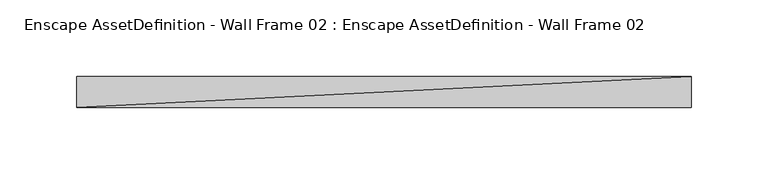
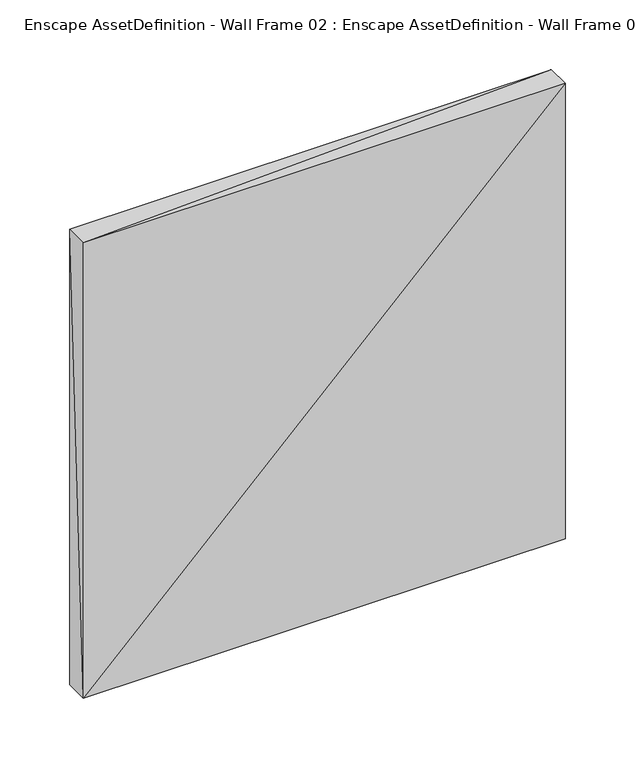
"""IFC4 building model written with IfcOpenShell, lengths in millimetres: geographic element geometry, Enscape AssetDefinition - Wall Frame 02 : Enscape AssetDefinition - Wall Frame 02."""

import ifcopenshell
import ifcopenshell.guid

model = None  # the IFC model being written
_history = None  # IfcOwnerHistory: only IFC2X3 demands one
_inside = {}  # id of a spatial element -> (the spatial element, [elements in it])
_under = {}  # id of a project, library or spatial element -> (it, [spatial elements below it])
_declared = {}  # id of a project -> (the project, [libraries it declares])
_typed = {}  # id of a type object -> (the type object, [elements of that type])
_made_of = {}  # id of a material, layer set ... -> (it, [elements and type objects made of it])


def new_model(schema):
    """Start an empty IFC model of exactly this schema.

    Asked for "IFC4X3", IfcOpenShell would pick the latest addendum, in which some entities
    have other attributes; the version numbers below select the first issue.
    IFC2X3 requires an IfcOwnerHistory on every rooted entity: one is made here for all.
    """
    global model, _history
    if schema == "IFC4X3":
        model = ifcopenshell.file(schema_version=(4, 3, 0, 0))
    else:
        model = ifcopenshell.file(schema=schema)
    _inside.clear()
    _under.clear()
    _declared.clear()
    _typed.clear()
    _made_of.clear()
    _history = None
    if model.schema == "IFC2X3":
        org = make("IfcOrganization", Name="unknown")
        user = make(
            "IfcPersonAndOrganization",
            ThePerson=make("IfcPerson", FamilyName="unknown"),
            TheOrganization=org,
        )
        app = make(
            "IfcApplication",
            ApplicationDeveloper=org,
            Version="unknown",
            ApplicationFullName="unknown",
            ApplicationIdentifier="unknown",
        )
        _history = make(
            "IfcOwnerHistory",
            OwningUser=user,
            OwningApplication=app,
            ChangeAction="ADDED",
            CreationDate=0,
        )
    return model


def make(cls, **values):
    """One entity of the class cls with the attributes given. An attribute that is None is left unset."""
    return model.create_entity(
        cls, **{name: value for name, value in values.items() if value is not None}
    )


def rooted(cls, **values):
    """An entity with a GlobalId (a new one), such as an element, a storey or a relation."""
    return make(cls, GlobalId=ifcopenshell.guid.new(), OwnerHistory=_history, **values)


def si_unit(unit_type, name, prefix=None):
    """IfcSIUnit, for example si_unit("LENGTHUNIT", "METRE", prefix="MILLI")."""
    return make("IfcSIUnit", UnitType=unit_type, Prefix=prefix, Name=name)


def assignment(units):
    """IfcUnitAssignment: the units of a project."""
    return None if units is None else make("IfcUnitAssignment", Units=units)


def point(xyz):
    """IfcCartesianPoint."""
    return None if xyz is None else make("IfcCartesianPoint", Coordinates=xyz)


def direction(xyz):
    """IfcDirection."""
    return None if xyz is None else make("IfcDirection", DirectionRatios=xyz)


def frame(location, z_axis=None, x_axis=None):
    """IfcAxis2Placement3D, a coordinate frame: its origin and axes. An axis left out is left unset."""
    return make(
        "IfcAxis2Placement3D",
        Location=point(location),
        Axis=direction(z_axis),
        RefDirection=direction(x_axis),
    )


def origin():
    """The frame at (0, 0, 0) with its axes left unset."""
    return frame((0.0, 0.0, 0.0))


def place(relative_to, where):
    """IfcLocalPlacement: puts the frame where relative to a parent placement (None: the world)."""
    return make(
        "IfcLocalPlacement", PlacementRelTo=relative_to, RelativePlacement=where
    )


def context(
    kind, dimensions, precision=None, world=None, true_north=None, identifier=None
):
    """IfcGeometricRepresentationContext, for example the 3D "Model" context."""
    return make(
        "IfcGeometricRepresentationContext",
        ContextIdentifier=identifier,
        ContextType=kind,
        CoordinateSpaceDimension=dimensions,
        Precision=precision,
        WorldCoordinateSystem=world,
        TrueNorth=true_north,
    )


def project(units=None, contexts=None):
    """IfcProject with its units and contexts."""
    return rooted(
        "IfcProject",
        Name="project",
        RepresentationContexts=contexts,
        UnitsInContext=assignment(units),
    )


def spatial(cls, under=None, at=None, **own):
    """A site, building, storey or space (cls), placed at a placement, below another one or the project."""
    s = rooted(cls, ObjectPlacement=at, **own)
    if under is not None:
        _under.setdefault(under.id(), (under, []))[1].append(s)
    return s


def faces_of(points, faces, orient=None, outer=None):
    """IfcFace entities. A face is a list of loops; a loop is a list of indices into points, from 0.

    orient and outer hold one flag for each loop. By default every Orientation is true, the
    first loop of a face is its IfcFaceOuterBound and the others are IfcFaceBound.
    """
    made = []
    for i, loops in enumerate(faces):
        bounds = []
        for j, loop in enumerate(loops):
            is_outer = j == 0 if outer is None else outer[i][j]
            bounds.append(
                make(
                    "IfcFaceOuterBound" if is_outer else "IfcFaceBound",
                    Bound=make("IfcPolyLoop", Polygon=[points[k] for k in loop]),
                    Orientation=True if orient is None else orient[i][j],
                )
            )
        made.append(make("IfcFace", Bounds=bounds))
    return made


def faceted_brep(points, faces, orient=None, outer=None, voids=None):
    """IfcFacetedBrep: a solid bounded by flat faces; with voids (closed shells), ...WithVoids."""
    shared = [point(p) for p in points]
    hull = make("IfcClosedShell", CfsFaces=faces_of(shared, faces, orient, outer))
    if voids is None:
        return make("IfcFacetedBrep", Outer=hull)
    return make(
        "IfcFacetedBrepWithVoids",
        Outer=hull,
        Voids=[
            make(cls, CfsFaces=faces_of(shared, fs, o, b)) for cls, fs, o, b in voids
        ],
    )


def shape(context_of_items, identifier, shape_type, items):
    """IfcShapeRepresentation: the items that make up one representation, for example the "Body"."""
    return make(
        "IfcShapeRepresentation",
        ContextOfItems=context_of_items,
        RepresentationIdentifier=identifier,
        RepresentationType=shape_type,
        Items=items,
    )


def source(mapping_origin, context_of_items, identifier, shape_type, items):
    """IfcRepresentationMap: a shape defined once, which mapped items show again and again."""
    return make(
        "IfcRepresentationMap",
        MappingOrigin=mapping_origin,
        MappedRepresentation=shape(context_of_items, identifier, shape_type, items),
    )


def transform(
    local_origin,
    x_axis=None,
    y_axis=None,
    z_axis=None,
    scale=None,
    scale2=None,
    scale3=None,
    uniform=True,
):
    """IfcCartesianTransformationOperator3D, or its non-uniform kind. x_axis, y_axis, z_axis: its Axis1, 2, 3."""
    if uniform:
        return make(
            "IfcCartesianTransformationOperator3D",
            Axis1=direction(x_axis),
            Axis2=direction(y_axis),
            LocalOrigin=point(local_origin),
            Scale=scale,
            Axis3=direction(z_axis),
        )
    return make(
        "IfcCartesianTransformationOperator3DnonUniform",
        Axis1=direction(x_axis),
        Axis2=direction(y_axis),
        LocalOrigin=point(local_origin),
        Scale=scale,
        Axis3=direction(z_axis),
        Scale2=scale2,
        Scale3=scale3,
    )


def mapped(mapping_source, mapping_target):
    """IfcMappedItem: shows the shape of a source again, moved by a transform."""
    return make(
        "IfcMappedItem", MappingSource=mapping_source, MappingTarget=mapping_target
    )


def made_of(thing, what):
    """Note that an element or type object is made of a material, layer set ...; save() writes the relation."""
    if what is not None:
        _made_of.setdefault(what.id(), (what, []))[1].append(thing)
    return thing


def element(
    cls,
    number,
    at=None,
    inside=None,
    cuts=None,
    type_object=None,
    material=None,
    context=None,
    identifier="Body",
    shape_type=None,
    held_by="IfcProductDefinitionShape",
    body=None,
    shapes=None,
    **own,
):
    """One element of the class cls, such as IfcWall. Its Tag is "e" and its number.

    at: its placement. inside: the storey or other place that contains it. cuts: it is an
    opening in that element (IfcRelVoidsElement). A single representation is given by context,
    identifier, shape_type and body (its items); several are given by shapes. held_by: the class
    of the entity that holds the representations. save() writes the other relations.
    """
    e = rooted(cls, Tag="e%d" % number, ObjectPlacement=at, **own)
    if body is not None:
        shapes = [shape(context, identifier, shape_type, body)]
    if shapes is not None:
        e.Representation = make(held_by, Representations=shapes)
    if inside is not None:
        _inside.setdefault(inside.id(), (inside, []))[1].append(e)
    if cuts is not None:
        rooted(
            "IfcRelVoidsElement", RelatingBuildingElement=cuts, RelatedOpeningElement=e
        )
    if type_object is not None:
        _typed.setdefault(type_object.id(), (type_object, []))[1].append(e)
    return made_of(e, material)


def aggregate(whole, parts):
    """IfcRelAggregates: a whole, such as a stair, and the parts it consists of."""
    return rooted("IfcRelAggregates", RelatingObject=whole, RelatedObjects=parts)


def save(model, path):
    """Write the relations noted so far, then the file.

    IfcRelAggregates (storeys below a building ...), IfcRelContainedInSpatialStructure (elements
    in a storey), IfcRelDefinesByType, IfcRelAssociatesMaterial and IfcRelDeclares: one each for
    every whole, place, type object, material and project.
    """
    for whole, parts in _under.values():
        aggregate(whole, parts)
    for where, things in _inside.values():
        rooted(
            "IfcRelContainedInSpatialStructure",
            RelatedElements=things,
            RelatingStructure=where,
        )
    for kind, things in _typed.values():
        rooted("IfcRelDefinesByType", RelatedObjects=things, RelatingType=kind)
    for what, things in _made_of.values():
        rooted("IfcRelAssociatesMaterial", RelatedObjects=things, RelatingMaterial=what)
    for by, libraries in _declared.values():
        rooted("IfcRelDeclares", RelatingContext=by, RelatedDefinitions=libraries)
    model.write(path)


def enscape_assetdefinition_wall_frame_02_enscape_4efbea40(model_context):
    return source(origin(), model_context, "Body", "Brep", [
        faceted_brep([(199.9999881, 3.56e-05, 0.0), (-199.9999881, 3.56e-05, 0.0), (199.9999881, -5.35e-05, 399.9999762), (-199.9999881, -20.0000815, 399.9999762), (-199.9999881, -19.9999902, 0.0), (199.9999881, -20.0000759, 399.9999762), (199.9999881, -19.9999902, 0.0), (-199.9999881, -5.35e-05, 399.9999762)], [[[0, 1, 2]], [[3, 4, 5]], [[4, 1, 6]], [[6, 0, 5]], [[5, 2, 3]], [[3, 7, 4]], [[2, 1, 7]], [[5, 4, 6]], [[6, 1, 0]], [[5, 0, 2]], [[3, 2, 7]], [[4, 7, 1]]]),
    ])


if __name__ == "__main__":
    model = new_model("IFC4")
    model_context = context("Model", 3, world=origin())
    ifc_project = project(units=[si_unit("LENGTHUNIT", "METRE", prefix="MILLI")], contexts=[model_context])
    site = spatial("IfcSite", under=ifc_project)
    building = spatial("IfcBuilding", under=site)
    placement = place(None, origin())
    enscape_assetdefinition_wall_frame_02_enscape_shape = enscape_assetdefinition_wall_frame_02_enscape_4efbea40(model_context)
    element("IfcGeographicElement", 1, ObjectType="Enscape AssetDefinition - Wall Frame 02 : Enscape AssetDefinition - Wall Frame 02", at=placement, inside=building, context=model_context, shape_type="MappedRepresentation", body=[
        mapped(enscape_assetdefinition_wall_frame_02_enscape_shape, transform((0.0, 0.0, 0.0), x_axis=(1.0, 0.0, 0.0), y_axis=(0.0, 1.0, 0.0), z_axis=(0.0, 0.0, 1.0))),
    ])
    save(model, "model.ifc")
